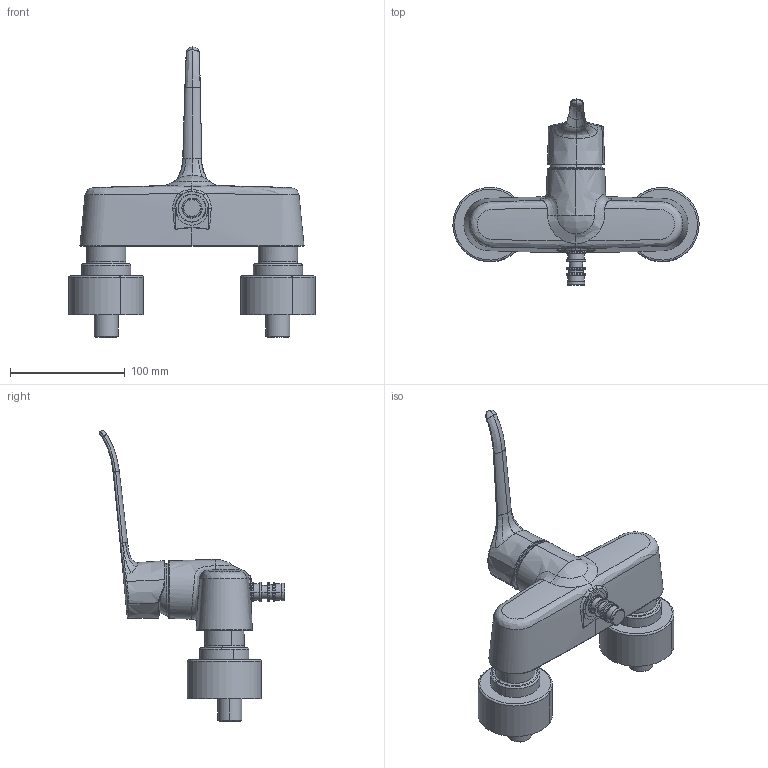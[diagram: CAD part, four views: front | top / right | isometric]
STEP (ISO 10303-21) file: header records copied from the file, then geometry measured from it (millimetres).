
FILE_DESCRIPTION (( 'STEP AP203' ), '1' );
FILE_NAME ('01556279(2023).STEP', '2024-02-06T08:40:12', ( '' ), ( '' ), 'SwSTEP 2.0', 'SolidWorks 2016', '' );
FILE_SCHEMA (( 'CONFIG_CONTROL_DESIGN' ));
Length unit declared in the file: millimetre
Products named in the file (1): 01556279(2023)
Bounding box: 214.94 x 162.13 x 253.6 mm (x, y, z)
Volume: 814211.1 mm3; surface area: 100523.8 mm2
Topology: 1 solids, 1 shells, 242 faces, 553 edges, 337 vertices
Faces by surface type: bspline 114, cylinder 50, plane 37, cone 35, torus 4, sphere 2
Entity records: 21857 total; most frequent: CARTESIAN_POINT 17039, ORIENTED_EDGE 1106, DIRECTION 809, EDGE_CURVE 553, AXIS2_PLACEMENT_3D 351, VERTEX_POINT 337, EDGE_LOOP 266, ADVANCED_FACE 242
